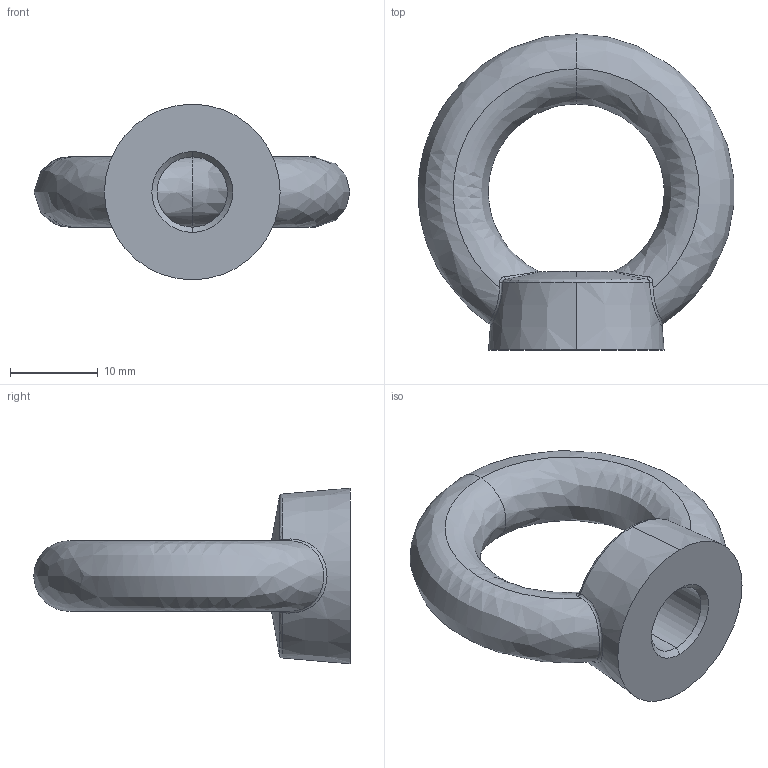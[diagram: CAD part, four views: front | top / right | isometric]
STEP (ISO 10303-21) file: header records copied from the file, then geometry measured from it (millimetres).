
FILE_DESCRIPTION (( 'STEP AP203' ), '1' );
FILE_NAME ('P4041.080-ZP.step', '2023-04-16T07:59:03', ( '' ), ( '' ), 'SwSTEP 2.0', 'SolidWorks 2019', '' );
FILE_SCHEMA (( 'CONFIG_CONTROL_DESIGN' ));
Length unit declared in the file: millimetre
Products named in the file (1): P4041.080-ZP
Bounding box: 35.93 x 35.99 x 20 mm (x, y, z)
Volume: 5542.9 mm3; surface area: 2858.3 mm2
Topology: 1 solids, 1 shells, 24 faces, 59 edges, 34 vertices
Faces by surface type: bspline 12, cone 6, torus 3, cylinder 2, plane 1
Entity records: 2925 total; most frequent: CARTESIAN_POINT 2360, ORIENTED_EDGE 118, DIRECTION 84, EDGE_CURVE 59, AXIS2_PLACEMENT_3D 38, VERTEX_POINT 34, EDGE_LOOP 25, CIRCLE 25
